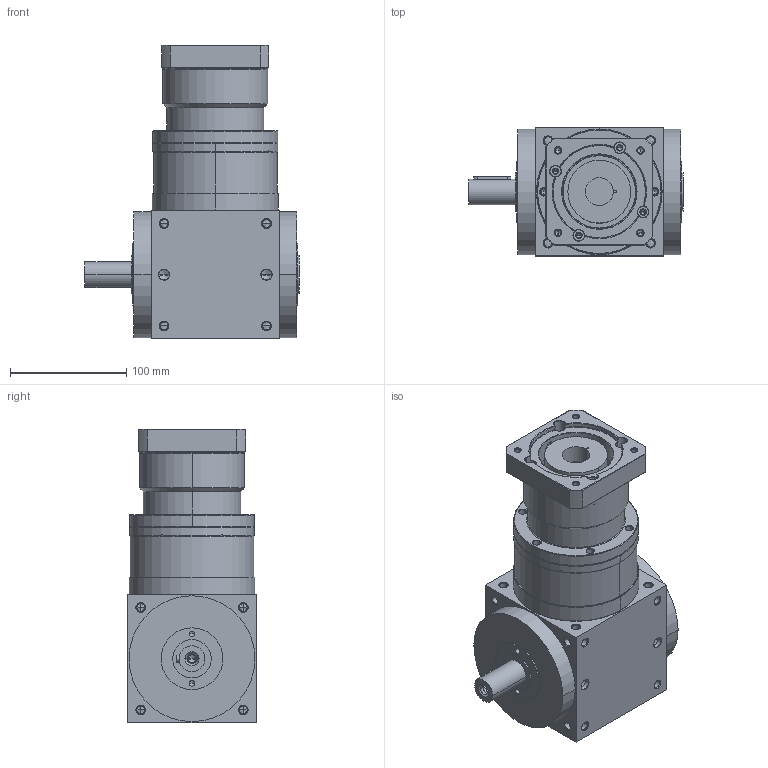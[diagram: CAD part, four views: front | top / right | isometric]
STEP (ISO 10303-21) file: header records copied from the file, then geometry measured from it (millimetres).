
FILE_DESCRIPTION((''),'2;1');
FILE_NAME('ATB110FL12-P0405300303_ASM','2014-07-29T',('d01707'),(''),'PRO/ENGINEER BY PARAMETRIC TECHNOLOGY CORPORATION, 2008410','PRO/ENGINEER BY PARAMETRIC TECHNOLOGY CORPORATION, 2008410','');
FILE_SCHEMA(('CONFIG_CONTROL_DESIGN'));
Length unit declared in the file: millimetre
Products named in the file (5): ATBFL1-HOUSING-2-5; P1820500001; P0226500001; P0405300303; ATB110FL12-P0405300303_ASM
Assembly tree (4 placements, depth 2):
  ATB110FL12-P0405300303_ASM
    ATBFL1-HOUSING-2-5
    P1820500001
    P0226500001
    P0405300303
Bounding box: 184 x 110 x 252 mm (x, y, z)
Volume: 2409085.3 mm3; surface area: 262213.9 mm2
Topology: 4 solids, 43 shells, 806 faces, 1985 edges, 1169 vertices
Faces by surface type: cylinder 354, cone 272, plane 114, torus 50, bspline 16
Entity records: 24784 total; most frequent: CARTESIAN_POINT 5788, DIRECTION 4251, ORIENTED_EDGE 3626, EDGE_CURVE 1891, AXIS2_PLACEMENT_3D 1775, VERTEX_POINT 1169, CIRCLE 968, EDGE_LOOP 954
